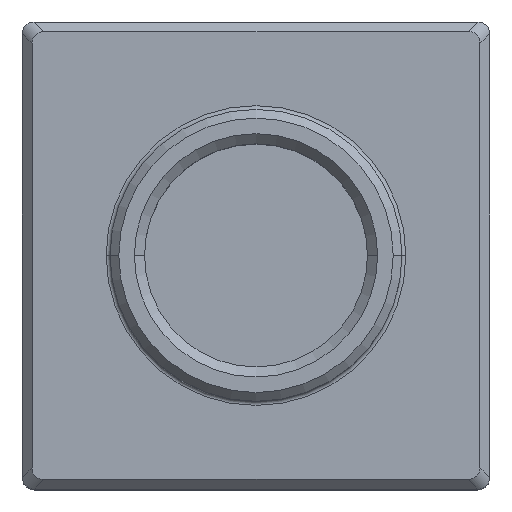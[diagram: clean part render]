
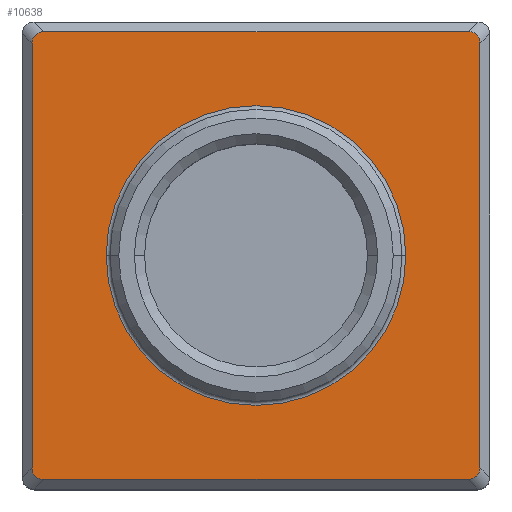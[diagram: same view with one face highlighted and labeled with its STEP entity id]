
A CAD part, top view. The second image highlights one B-rep face of the part: STEP entity #10638.
In plain terms, the highlighted planar face has unit normal (0, 0, 1).
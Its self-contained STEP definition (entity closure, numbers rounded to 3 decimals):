
#3844 = CIRCLE ( 'NONE', #40799, 7.7 ) ;
#9730 = CARTESIAN_POINT ( 'NONE',  ( 0., 0., 8. ) ) ;
#10544 = DIRECTION ( 'NONE',  ( -1., 0., 0. ) ) ;
#10638 = ADVANCED_FACE ( 'NONE', ( #127841, #83540 ), #217740, .F. ) ;
#11182 = EDGE_CURVE ( 'NONE', #222739, #45796, #68402, .T. ) ;
#11665 = CARTESIAN_POINT ( 'NONE',  ( 0., -11.5, 8. ) ) ;
#13560 = VECTOR ( 'NONE', #68059, 1000. ) ;
#16803 = CARTESIAN_POINT ( 'NONE',  ( -10.899, 11.5, 8. ) ) ;
#19076 = ORIENTED_EDGE ( 'NONE', *, *, #94989, .T. ) ;
#21986 = EDGE_CURVE ( 'NONE', #129641, #103784, #3844, .T. ) ;
#23353 = CARTESIAN_POINT ( 'NONE',  ( -11.5, -10.899, 8. ) ) ;
#34002 =( BOUNDED_CURVE ( )  B_SPLINE_CURVE ( 3, ( #39147, #225657, #97863, #173287 ),
 .UNSPECIFIED., .F., .F. ) 
 B_SPLINE_CURVE_WITH_KNOTS ( ( 4, 4 ),
 ( 2.618, 3.665 ),
 .UNSPECIFIED. ) 
 CURVE ( )  GEOMETRIC_REPRESENTATION_ITEM ( )  RATIONAL_B_SPLINE_CURVE ( ( 1., 0.911, 0.911, 1. ) ) 
 REPRESENTATION_ITEM ( '' )  );
#34298 = CARTESIAN_POINT ( 'NONE',  ( 10.899, 11.5, 8. ) ) ;
#39147 = CARTESIAN_POINT ( 'NONE',  ( 10.899, -11.5, 8. ) ) ;
#40799 = AXIS2_PLACEMENT_3D ( 'NONE', #187056, #207066, #208706 ) ;
#41663 = CARTESIAN_POINT ( 'NONE',  ( -11.5, -10.899, 8. ) ) ;
#43049 =( BOUNDED_CURVE ( )  B_SPLINE_CURVE ( 3, ( #23353, #232158, #156635, #175668 ),
 .UNSPECIFIED., .F., .F. ) 
 B_SPLINE_CURVE_WITH_KNOTS ( ( 4, 4 ),
 ( 5.76, 6.807 ),
 .UNSPECIFIED. ) 
 CURVE ( )  GEOMETRIC_REPRESENTATION_ITEM ( )  RATIONAL_B_SPLINE_CURVE ( ( 1., 0.911, 0.911, 1. ) ) 
 REPRESENTATION_ITEM ( '' )  );
#44913 = AXIS2_PLACEMENT_3D ( 'NONE', #9730, #237538, #10544 ) ;
#45553 = CARTESIAN_POINT ( 'NONE',  ( 7.7, 0., 8. ) ) ;
#45796 = VERTEX_POINT ( 'NONE', #204397 ) ;
#47129 = VECTOR ( 'NONE', #242351, 1000. ) ;
#48265 = EDGE_LOOP ( 'NONE', ( #82033, #90510, #53168, #242129, #19076, #117318, #165934, #122280 ) ) ;
#49967 = CARTESIAN_POINT ( 'NONE',  ( 0., 0., 8. ) ) ;
#53168 = ORIENTED_EDGE ( 'NONE', *, *, #11182, .T. ) ;
#61256 = CARTESIAN_POINT ( 'NONE',  ( -11.28, 11.5, 8. ) ) ;
#62407 = VECTOR ( 'NONE', #123565, 1000. ) ;
#64031 = LINE ( 'NONE', #11665, #13560 ) ;
#66192 = CARTESIAN_POINT ( 'NONE',  ( -10.899, -11.5, 8. ) ) ;
#68059 = DIRECTION ( 'NONE',  ( 1., 0., 0. ) ) ;
#68402 = LINE ( 'NONE', #217430, #62407 ) ;
#77582 = VERTEX_POINT ( 'NONE', #244047 ) ;
#77872 = CARTESIAN_POINT ( 'NONE',  ( 11.28, 11.5, 8. ) ) ;
#81126 = CARTESIAN_POINT ( 'NONE',  ( -10.899, 11.5, 8. ) ) ;
#81577 =( BOUNDED_CURVE ( )  B_SPLINE_CURVE ( 3, ( #81126, #61256, #233566, #194569 ),
 .UNSPECIFIED., .F., .F. ) 
 B_SPLINE_CURVE_WITH_KNOTS ( ( 4, 4 ),
 ( 5.76, 6.807 ),
 .UNSPECIFIED. ) 
 CURVE ( )  GEOMETRIC_REPRESENTATION_ITEM ( )  RATIONAL_B_SPLINE_CURVE ( ( 1., 0.911, 0.911, 1. ) ) 
 REPRESENTATION_ITEM ( '' )  );
#82033 = ORIENTED_EDGE ( 'NONE', *, *, #169562, .T. ) ;
#83540 = FACE_OUTER_BOUND ( 'NONE', #48265, .T. ) ;
#84835 = VERTEX_POINT ( 'NONE', #66192 ) ;
#90510 = ORIENTED_EDGE ( 'NONE', *, *, #113564, .T. ) ;
#94419 = CARTESIAN_POINT ( 'NONE',  ( 10.899, 11.5, 8. ) ) ;
#94989 = EDGE_CURVE ( 'NONE', #179965, #109576, #165806, .T. ) ;
#97588 = EDGE_CURVE ( 'NONE', #103784, #129641, #182490, .T. ) ;
#97728 = CARTESIAN_POINT ( 'NONE',  ( 0., 11.5, 8. ) ) ;
#97863 = CARTESIAN_POINT ( 'NONE',  ( 11.5, -11.28, 8. ) ) ;
#103784 = VERTEX_POINT ( 'NONE', #45553 ) ;
#109576 = VERTEX_POINT ( 'NONE', #16803 ) ;
#110347 = EDGE_LOOP ( 'NONE', ( #195838, #190654 ) ) ;
#113564 = EDGE_CURVE ( 'NONE', #77582, #222739, #34002, .T. ) ;
#116381 = CARTESIAN_POINT ( 'NONE',  ( -7.7, 0., 8. ) ) ;
#117318 = ORIENTED_EDGE ( 'NONE', *, *, #171875, .T. ) ;
#122280 = ORIENTED_EDGE ( 'NONE', *, *, #222920, .T. ) ;
#123565 = DIRECTION ( 'NONE',  ( 0., 1., 0. ) ) ;
#127841 = FACE_BOUND ( 'NONE', #110347, .T. ) ;
#129641 = VERTEX_POINT ( 'NONE', #116381 ) ;
#140333 = CARTESIAN_POINT ( 'NONE',  ( -11.5, 0., 8. ) ) ;
#149559 = CARTESIAN_POINT ( 'NONE',  ( 11.5, -10.899, 8. ) ) ;
#154124 = DIRECTION ( 'NONE',  ( -1., 0., 0. ) ) ;
#156635 = CARTESIAN_POINT ( 'NONE',  ( -11.28, -11.5, 8. ) ) ;
#159706 = LINE ( 'NONE', #140333, #47129 ) ;
#165806 = LINE ( 'NONE', #97728, #242946 ) ;
#165934 = ORIENTED_EDGE ( 'NONE', *, *, #176603, .T. ) ;
#169562 = EDGE_CURVE ( 'NONE', #84835, #77582, #64031, .T. ) ;
#171875 = EDGE_CURVE ( 'NONE', #109576, #189161, #81577, .T. ) ;
#173287 = CARTESIAN_POINT ( 'NONE',  ( 11.5, -10.899, 8. ) ) ;
#175668 = CARTESIAN_POINT ( 'NONE',  ( -10.899, -11.5, 8. ) ) ;
#176603 = EDGE_CURVE ( 'NONE', #189161, #192048, #159706, .T. ) ;
#177043 = CARTESIAN_POINT ( 'NONE',  ( -11.5, 10.899, 8. ) ) ;
#179965 = VERTEX_POINT ( 'NONE', #34298 ) ;
#182384 = DIRECTION ( 'NONE',  ( 0., 0., -1. ) ) ;
#182490 = CIRCLE ( 'NONE', #245306, 7.7 ) ;
#187056 = CARTESIAN_POINT ( 'NONE',  ( 0., 0., 8. ) ) ;
#187486 =( BOUNDED_CURVE ( )  B_SPLINE_CURVE ( 3, ( #227062, #207227, #77872, #94419 ),
 .UNSPECIFIED., .F., .F. ) 
 B_SPLINE_CURVE_WITH_KNOTS ( ( 4, 4 ),
 ( 2.618, 3.665 ),
 .UNSPECIFIED. ) 
 CURVE ( )  GEOMETRIC_REPRESENTATION_ITEM ( )  RATIONAL_B_SPLINE_CURVE ( ( 1., 0.911, 0.911, 1. ) ) 
 REPRESENTATION_ITEM ( '' )  );
#189161 = VERTEX_POINT ( 'NONE', #177043 ) ;
#190654 = ORIENTED_EDGE ( 'NONE', *, *, #97588, .T. ) ;
#192048 = VERTEX_POINT ( 'NONE', #41663 ) ;
#194533 = EDGE_CURVE ( 'NONE', #45796, #179965, #187486, .T. ) ;
#194569 = CARTESIAN_POINT ( 'NONE',  ( -11.5, 10.899, 8. ) ) ;
#195838 = ORIENTED_EDGE ( 'NONE', *, *, #21986, .T. ) ;
#201563 = DIRECTION ( 'NONE',  ( -1., 0., 0. ) ) ;
#204397 = CARTESIAN_POINT ( 'NONE',  ( 11.5, 10.899, 8. ) ) ;
#207066 = DIRECTION ( 'NONE',  ( 0., 0., -1. ) ) ;
#207227 = CARTESIAN_POINT ( 'NONE',  ( 11.5, 11.28, 8. ) ) ;
#208706 = DIRECTION ( 'NONE',  ( -1., 0., 0. ) ) ;
#217430 = CARTESIAN_POINT ( 'NONE',  ( 11.5, 0., 8. ) ) ;
#217740 = PLANE ( 'NONE',  #44913 ) ;
#222739 = VERTEX_POINT ( 'NONE', #149559 ) ;
#222920 = EDGE_CURVE ( 'NONE', #192048, #84835, #43049, .T. ) ;
#225657 = CARTESIAN_POINT ( 'NONE',  ( 11.28, -11.5, 8. ) ) ;
#227062 = CARTESIAN_POINT ( 'NONE',  ( 11.5, 10.899, 8. ) ) ;
#232158 = CARTESIAN_POINT ( 'NONE',  ( -11.5, -11.28, 8. ) ) ;
#233566 = CARTESIAN_POINT ( 'NONE',  ( -11.5, 11.28, 8. ) ) ;
#237538 = DIRECTION ( 'NONE',  ( 0., 0., -1. ) ) ;
#242129 = ORIENTED_EDGE ( 'NONE', *, *, #194533, .T. ) ;
#242351 = DIRECTION ( 'NONE',  ( 0., -1., 0. ) ) ;
#242946 = VECTOR ( 'NONE', #154124, 1000. ) ;
#244047 = CARTESIAN_POINT ( 'NONE',  ( 10.899, -11.5, 8. ) ) ;
#245306 = AXIS2_PLACEMENT_3D ( 'NONE', #49967, #182384, #201563 ) ;
